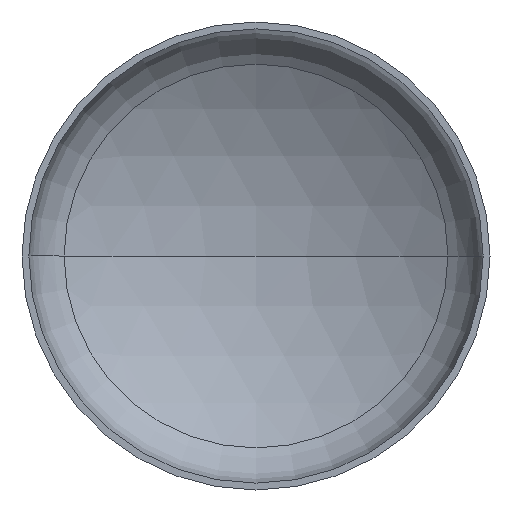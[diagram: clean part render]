
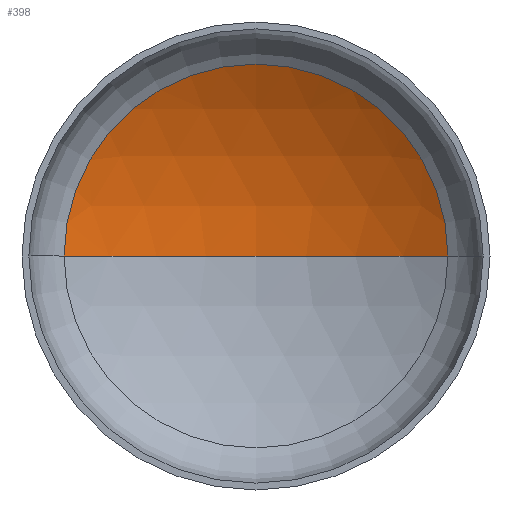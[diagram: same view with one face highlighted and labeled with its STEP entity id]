
A CAD part, front view. The second image highlights one B-rep face of the part: STEP entity #398.
In plain terms, the highlighted spherical face has radius 2720 mm.
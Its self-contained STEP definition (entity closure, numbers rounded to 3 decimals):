
#9 = AXIS2_PLACEMENT_3D ( 'NONE', #148, #335, #186 ) ;
#10 = AXIS2_PLACEMENT_3D ( 'NONE', #257, #73, #281 ) ;
#12 = CARTESIAN_POINT ( 'NONE',  ( -1394.077, 600.802, 0. ) ) ;
#24 = ORIENTED_EDGE ( 'NONE', *, *, #383, .F. ) ;
#29 = CIRCLE ( 'NONE', #9, 2720. ) ;
#53 = ORIENTED_EDGE ( 'NONE', *, *, #342, .T. ) ;
#73 = DIRECTION ( 'NONE',  ( 0., -1., 0. ) ) ;
#128 = CARTESIAN_POINT ( 'NONE',  ( 1394.077, 600.802, 0. ) ) ;
#130 = VERTEX_POINT ( 'NONE', #273 ) ;
#148 = CARTESIAN_POINT ( 'NONE',  ( 0., -1734.781, 0. ) ) ;
#155 = CARTESIAN_POINT ( 'NONE',  ( 0., -1734.781, 0. ) ) ;
#164 = CIRCLE ( 'NONE', #10, 1394.077 ) ;
#186 = DIRECTION ( 'NONE',  ( -1., 0., 0. ) ) ;
#191 = DIRECTION ( 'NONE',  ( 1., 0., 0. ) ) ;
#214 = SPHERICAL_SURFACE ( 'NONE', #332, 2720. ) ;
#217 = CARTESIAN_POINT ( 'NONE',  ( 0., -1734.781, 0. ) ) ;
#241 = DIRECTION ( 'NONE',  ( -1., 0., 0. ) ) ;
#253 = VERTEX_POINT ( 'NONE', #12 ) ;
#257 = CARTESIAN_POINT ( 'NONE',  ( 0., 600.802, 0. ) ) ;
#272 = VERTEX_POINT ( 'NONE', #128 ) ;
#273 = CARTESIAN_POINT ( 'NONE',  ( 0., 985.219, 0. ) ) ;
#281 = DIRECTION ( 'NONE',  ( 1., 0., 0. ) ) ;
#295 = AXIS2_PLACEMENT_3D ( 'NONE', #155, #341, #191 ) ;
#332 = AXIS2_PLACEMENT_3D ( 'NONE', #217, #367, #241 ) ;
#335 = DIRECTION ( 'NONE',  ( 0., 0., -1. ) ) ;
#341 = DIRECTION ( 'NONE',  ( 0., 0., 1. ) ) ;
#342 = EDGE_CURVE ( 'NONE', #272, #253, #164, .T. ) ;
#343 = EDGE_CURVE ( 'NONE', #130, #272, #29, .T. ) ;
#351 = CIRCLE ( 'NONE', #295, 2720. ) ;
#367 = DIRECTION ( 'NONE',  ( 0., 0., -1. ) ) ;
#378 = EDGE_LOOP ( 'NONE', ( #24, #404, #53 ) ) ;
#383 = EDGE_CURVE ( 'NONE', #130, #253, #351, .T. ) ;
#396 = FACE_OUTER_BOUND ( 'NONE', #378, .T. ) ;
#398 = ADVANCED_FACE ( 'NONE', ( #396 ), #214, .F. ) ;
#404 = ORIENTED_EDGE ( 'NONE', *, *, #343, .T. ) ;
